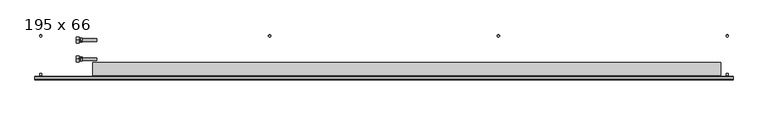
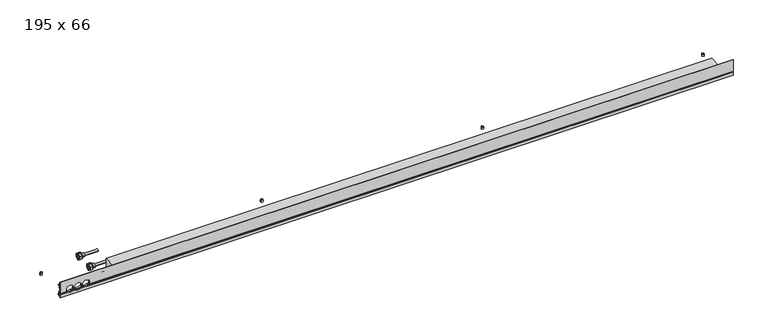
"""IFC4 building model written with IfcOpenShell, lengths in millimetres: proxy geometry, Mohlenhof_Внутрипольный конвектор_QSKM : 195 x 66."""

from ifc_helpers import new_model, si_unit, point, frame, frame_2d, origin, place, context, project, spatial, polyline, circle_curve, ellipse_curve, trimmed, segment, composite_curve, outline, extrude, source, transform, mapped, element, save
from ifc_brep_helpers import plane_surface, cylinder_surface, revolved_surface, advanced_brep


def proxy_195_x_66_0fd88f3c(model_context):
    return source(origin(), model_context, "Body", "SolidModel", [
        extrude(outline(composite_curve([segment(trimmed(circle_curve(frame_2d((-450.0, -273.5)), 4.5), [point((-454.5, -273.5))], [point((-445.5, -273.5))], False, "CARTESIAN"), True, "CONTINUOUS"), segment(trimmed(circle_curve(frame_2d((-450.0, -273.5)), 4.5), [point((-445.5, -273.5))], [point((-454.5, -273.5))], False, "CARTESIAN"), True, "CONTINUOUS")], self_intersect=False)), frame((0.0, 0.0, -79.0), z_axis=(0.0, 0.0, 1.0), x_axis=(1.0, 0.0, 0.0)), (0.0, 0.0, 1.0), 7.0),
        extrude(outline(composite_curve([segment(trimmed(circle_curve(frame_2d((-450.0, -273.5)), 4.0), [point((-454.0, -273.5))], [point((-446.0, -273.5))], False, "CARTESIAN"), True, "CONTINUOUS"), segment(trimmed(circle_curve(frame_2d((-450.0, -273.5)), 4.0), [point((-446.0, -273.5))], [point((-454.0, -273.5))], False, "CARTESIAN"), True, "CONTINUOUS")], self_intersect=False)), frame((0.0, 0.0, -72.0), z_axis=(0.0, 0.0, 1.0), x_axis=(1.0, 0.0, 0.0)), (0.0, 0.0, 1.0), 1.5),
        extrude(outline(composite_curve([segment(trimmed(circle_curve(frame_2d((450.0, -273.5)), 4.5), [point((445.5, -273.5))], [point((454.5, -273.5))], False, "CARTESIAN"), True, "CONTINUOUS"), segment(trimmed(circle_curve(frame_2d((450.0, -273.5)), 4.5), [point((454.5, -273.5))], [point((445.5, -273.5))], False, "CARTESIAN"), True, "CONTINUOUS")], self_intersect=False)), frame((0.0, 0.0, -79.0), z_axis=(0.0, 0.0, 1.0), x_axis=(1.0, 0.0, 0.0)), (0.0, 0.0, 1.0), 7.0),
        extrude(outline(composite_curve([segment(trimmed(circle_curve(frame_2d((450.0, -273.5)), 4.0), [point((446.0, -273.5))], [point((454.0, -273.5))], False, "CARTESIAN"), True, "CONTINUOUS"), segment(trimmed(circle_curve(frame_2d((450.0, -273.5)), 4.0), [point((454.0, -273.5))], [point((446.0, -273.5))], False, "CARTESIAN"), True, "CONTINUOUS")], self_intersect=False)), frame((0.0, 0.0, -72.0), z_axis=(0.0, 0.0, 1.0), x_axis=(1.0, 0.0, 0.0)), (0.0, 0.0, 1.0), 1.5),
        extrude(outline(composite_curve([segment(trimmed(circle_curve(frame_2d((-450.0, -121.5)), 4.5), [point((-454.5, -121.5))], [point((-445.5, -121.5))], False, "CARTESIAN"), True, "CONTINUOUS"), segment(trimmed(circle_curve(frame_2d((-450.0, -121.5)), 4.5), [point((-445.5, -121.5))], [point((-454.5, -121.5))], False, "CARTESIAN"), True, "CONTINUOUS")], self_intersect=False)), frame((0.0, 0.0, -79.0), z_axis=(0.0, 0.0, 1.0), x_axis=(1.0, 0.0, 0.0)), (0.0, 0.0, 1.0), 7.0),
        extrude(outline(composite_curve([segment(trimmed(circle_curve(frame_2d((-450.0, -121.5)), 4.0), [point((-454.0, -121.5))], [point((-446.0, -121.5))], False, "CARTESIAN"), True, "CONTINUOUS"), segment(trimmed(circle_curve(frame_2d((-450.0, -121.5)), 4.0), [point((-446.0, -121.5))], [point((-454.0, -121.5))], False, "CARTESIAN"), True, "CONTINUOUS")], self_intersect=False)), frame((0.0, 0.0, -72.0), z_axis=(0.0, 0.0, 1.0), x_axis=(1.0, 0.0, 0.0)), (0.0, 0.0, 1.0), 1.5),
        extrude(outline(composite_curve([segment(trimmed(circle_curve(frame_2d((450.0, -121.5)), 4.5), [point((445.5, -121.5))], [point((454.5, -121.5))], False, "CARTESIAN"), True, "CONTINUOUS"), segment(trimmed(circle_curve(frame_2d((450.0, -121.5)), 4.5), [point((454.5, -121.5))], [point((445.5, -121.5))], False, "CARTESIAN"), True, "CONTINUOUS")], self_intersect=False)), frame((0.0, 0.0, -79.0), z_axis=(0.0, 0.0, 1.0), x_axis=(1.0, 0.0, 0.0)), (0.0, 0.0, 1.0), 7.0),
        extrude(outline(composite_curve([segment(trimmed(circle_curve(frame_2d((450.0, -121.5)), 4.0), [point((446.0, -121.5))], [point((454.0, -121.5))], False, "CARTESIAN"), True, "CONTINUOUS"), segment(trimmed(circle_curve(frame_2d((450.0, -121.5)), 4.0), [point((454.0, -121.5))], [point((446.0, -121.5))], False, "CARTESIAN"), True, "CONTINUOUS")], self_intersect=False)), frame((0.0, 0.0, -72.0), z_axis=(0.0, 0.0, 1.0), x_axis=(1.0, 0.0, 0.0)), (0.0, 0.0, 1.0), 1.5),
        advanced_brep(
        [(-1199.0, -213.0, -41.0), (-1199.0, -201.0, -41.0), (-1199.0, -225.0, -41.0), (-1186.5, -220.5, -41.0), (-1186.5, -205.5, -41.0), (-1186.5, -213.0, -41.0), (-1194.0, -220.5, -41.0), (-1194.0, -205.5, -41.0)],
        [
            (0, 1),
            (1, 2, circle_curve(frame((-1199.0, -213.0, -41.0), z_axis=(-1.0, 0.0, 0.0), x_axis=(0.0, 1.0, 0.0)), 12.0)),
            (2, 0),
            (2, 1, circle_curve(frame((-1199.0, -213.0, -41.0), z_axis=(-1.0, 0.0, 0.0), x_axis=(0.0, 1.0, 0.0)), 12.0)),
            (3, 4, circle_curve(frame((-1186.5, -213.0, -41.0), z_axis=(1.0, 0.0, 0.0), x_axis=(0.0, 1.0, 0.0)), 7.5)),
            (4, 5),
            (5, 3),
            (4, 3, circle_curve(frame((-1186.5, -213.0, -41.0), z_axis=(1.0, 0.0, 0.0), x_axis=(0.0, 1.0, 0.0)), 7.5)),
            (6, 7, circle_curve(frame((-1194.0, -213.0, -41.0), z_axis=(1.0, 0.0, 0.0), x_axis=(0.0, 1.0, 0.0)), 7.5)),
            (7, 4),
            (3, 6),
            (7, 6, circle_curve(frame((-1194.0, -213.0, -41.0), z_axis=(1.0, 0.0, 0.0), x_axis=(0.0, 1.0, 0.0)), 7.5)),
            (1, 7),
            (6, 2),
        ],
        [
            plane_surface(frame((-1199.0, -213.0, -41.0), z_axis=(-1.0, 0.0, 0.0), x_axis=(0.0, 1.0, 0.0))),
            plane_surface(frame((-1186.5, -213.0, -41.0), z_axis=(1.0, 0.0, 0.0), x_axis=(0.0, 1.0, 0.0))),
            cylinder_surface(frame((-1199.0, -213.0, -41.0), z_axis=(-1.0, 0.0, 0.0), x_axis=(0.0, 1.0, 0.0)), 7.5),
            revolved_surface(polyline([(-1194.0, -205.5, -41.0), (-1199.0, -201.0, -41.0)]), (-1199.0, -213.0, -41.0), (-1.0, 0.0, 0.0)),
        ],
        [
            (0, [[1, 2, 3]]),
            (0, [[-3, 4, -1]]),
            (1, [[5, 6, 7]]),
            (1, [[8, -7, -6]]),
            (2, [[9, 10, -5, 11]]),
            (2, [[12, -11, -8, -10]]),
            (3, [[-2, 13, -9, 14]]),
            (3, [[-4, -14, -12, -13]]),
        ],
    ),
        extrude(outline(polyline([(-213.0, -27.1435935), (-201.0, -34.0717968), (-201.0, -47.9282032), (-213.0, -54.8564065), (-225.0, -47.9282032), (-225.0, -34.0717968), (-213.0, -27.1435935)]), holes=[composite_curve([segment(trimmed(circle_curve(frame_2d((-213.0, -41.0)), 8.5), [point((-204.5, -41.0))], [point((-221.5, -41.0))], True, "CARTESIAN"), True, "CONTINUOUS"), segment(trimmed(circle_curve(frame_2d((-213.0, -41.0)), 8.5), [point((-221.5, -41.0))], [point((-204.5, -41.0))], True, "CARTESIAN"), True, "CONTINUOUS")], self_intersect=False)]), frame((-1210.0, 0.0, 0.0), z_axis=(1.0, 0.0, 0.0), x_axis=(0.0, 1.0, 0.0)), (0.0, 0.0, 1.0), 11.0),
        advanced_brep(
        [(-1199.0, -138.0, -41.0), (-1199.0, -126.0, -41.0), (-1199.0, -150.0, -41.0), (-1186.5, -145.5, -41.0), (-1186.5, -130.5, -41.0), (-1186.5, -138.0, -41.0), (-1194.0, -145.5, -41.0), (-1194.0, -130.5, -41.0)],
        [
            (0, 1),
            (1, 2, circle_curve(frame((-1199.0, -138.0, -41.0), z_axis=(-1.0, 0.0, 0.0), x_axis=(0.0, 1.0, 0.0)), 12.0)),
            (2, 0),
            (2, 1, circle_curve(frame((-1199.0, -138.0, -41.0), z_axis=(-1.0, 0.0, 0.0), x_axis=(0.0, 1.0, 0.0)), 12.0)),
            (3, 4, circle_curve(frame((-1186.5, -138.0, -41.0), z_axis=(1.0, 0.0, 0.0), x_axis=(0.0, 1.0, 0.0)), 7.5)),
            (4, 5),
            (5, 3),
            (4, 3, circle_curve(frame((-1186.5, -138.0, -41.0), z_axis=(1.0, 0.0, 0.0), x_axis=(0.0, 1.0, 0.0)), 7.5)),
            (6, 7, circle_curve(frame((-1194.0, -138.0, -41.0), z_axis=(1.0, 0.0, 0.0), x_axis=(0.0, 1.0, 0.0)), 7.5)),
            (7, 4),
            (3, 6),
            (7, 6, circle_curve(frame((-1194.0, -138.0, -41.0), z_axis=(1.0, 0.0, 0.0), x_axis=(0.0, 1.0, 0.0)), 7.5)),
            (1, 7),
            (6, 2),
        ],
        [
            plane_surface(frame((-1199.0, -138.0, -41.0), z_axis=(-1.0, 0.0, 0.0), x_axis=(0.0, 1.0, 0.0))),
            plane_surface(frame((-1186.5, -138.0, -41.0), z_axis=(1.0, 0.0, 0.0), x_axis=(0.0, 1.0, 0.0))),
            cylinder_surface(frame((-1199.0, -138.0, -41.0), z_axis=(-1.0, 0.0, 0.0), x_axis=(0.0, 1.0, 0.0)), 7.5),
            revolved_surface(polyline([(-1194.0, -130.5, -41.0), (-1199.0, -126.0, -41.0)]), (-1199.0, -138.0, -41.0), (-1.0, 0.0, 0.0)),
        ],
        [
            (0, [[1, 2, 3]]),
            (0, [[-3, 4, -1]]),
            (1, [[5, 6, 7]]),
            (1, [[8, -7, -6]]),
            (2, [[9, 10, -5, 11]]),
            (2, [[12, -11, -8, -10]]),
            (3, [[-2, 13, -9, 14]]),
            (3, [[-4, -14, -12, -13]]),
        ],
    ),
        extrude(outline(polyline([(-138.0, -27.1435935), (-126.0, -34.0717968), (-126.0, -47.9282032), (-138.0, -54.8564065), (-150.0, -47.9282032), (-150.0, -34.0717968), (-138.0, -27.1435935)]), holes=[composite_curve([segment(trimmed(circle_curve(frame_2d((-138.0, -41.0)), 8.5), [point((-129.5, -41.0))], [point((-146.5, -41.0))], True, "CARTESIAN"), True, "CONTINUOUS"), segment(trimmed(circle_curve(frame_2d((-138.0, -41.0)), 8.5), [point((-146.5, -41.0))], [point((-129.5, -41.0))], True, "CARTESIAN"), True, "CONTINUOUS")], self_intersect=False)]), frame((-1210.0, 0.0, 0.0), z_axis=(1.0, 0.0, 0.0), x_axis=(0.0, 1.0, 0.0)), (0.0, 0.0, 1.0), 11.0),
        extrude(outline(composite_curve([segment(trimmed(circle_curve(frame_2d((-1350.0, -273.5)), 4.5), [point((-1354.5, -273.5))], [point((-1345.5, -273.5))], False, "CARTESIAN"), True, "CONTINUOUS"), segment(trimmed(circle_curve(frame_2d((-1350.0, -273.5)), 4.5), [point((-1345.5, -273.5))], [point((-1354.5, -273.5))], False, "CARTESIAN"), True, "CONTINUOUS")], self_intersect=False)), frame((0.0, 0.0, -79.0), z_axis=(0.0, 0.0, 1.0), x_axis=(1.0, 0.0, 0.0)), (0.0, 0.0, 1.0), 7.0),
        extrude(outline(composite_curve([segment(trimmed(circle_curve(frame_2d((-1350.0, -273.5)), 4.0), [point((-1354.0, -273.5))], [point((-1346.0, -273.5))], False, "CARTESIAN"), True, "CONTINUOUS"), segment(trimmed(circle_curve(frame_2d((-1350.0, -273.5)), 4.0), [point((-1346.0, -273.5))], [point((-1354.0, -273.5))], False, "CARTESIAN"), True, "CONTINUOUS")], self_intersect=False)), frame((0.0, 0.0, -72.0), z_axis=(0.0, 0.0, 1.0), x_axis=(1.0, 0.0, 0.0)), (0.0, 0.0, 1.0), 1.5),
        extrude(outline(composite_curve([segment(trimmed(circle_curve(frame_2d((-1350.0, -121.5)), 4.5), [point((-1354.5, -121.5))], [point((-1345.5, -121.5))], False, "CARTESIAN"), True, "CONTINUOUS"), segment(trimmed(circle_curve(frame_2d((-1350.0, -121.5)), 4.5), [point((-1345.5, -121.5))], [point((-1354.5, -121.5))], False, "CARTESIAN"), True, "CONTINUOUS")], self_intersect=False)), frame((0.0, 0.0, -79.0), z_axis=(0.0, 0.0, 1.0), x_axis=(1.0, 0.0, 0.0)), (0.0, 0.0, 1.0), 7.0),
        extrude(outline(composite_curve([segment(trimmed(circle_curve(frame_2d((-1350.0, -121.5)), 4.0), [point((-1354.0, -121.5))], [point((-1346.0, -121.5))], False, "CARTESIAN"), True, "CONTINUOUS"), segment(trimmed(circle_curve(frame_2d((-1350.0, -121.5)), 4.0), [point((-1346.0, -121.5))], [point((-1354.0, -121.5))], False, "CARTESIAN"), True, "CONTINUOUS")], self_intersect=False)), frame((0.0, 0.0, -72.0), z_axis=(0.0, 0.0, 1.0), x_axis=(1.0, 0.0, 0.0)), (0.0, 0.0, 1.0), 1.5),
        extrude(outline(composite_curve([segment(trimmed(circle_curve(frame_2d((1350.0, -273.5)), 4.5), [point((1345.5, -273.5))], [point((1354.5, -273.5))], False, "CARTESIAN"), True, "CONTINUOUS"), segment(trimmed(circle_curve(frame_2d((1350.0, -273.5)), 4.5), [point((1354.5, -273.5))], [point((1345.5, -273.5))], False, "CARTESIAN"), True, "CONTINUOUS")], self_intersect=False)), frame((0.0, 0.0, -79.0), z_axis=(0.0, 0.0, 1.0), x_axis=(1.0, 0.0, 0.0)), (0.0, 0.0, 1.0), 7.0),
        extrude(outline(composite_curve([segment(trimmed(circle_curve(frame_2d((1350.0, -273.5)), 4.0), [point((1346.0, -273.5))], [point((1354.0, -273.5))], False, "CARTESIAN"), True, "CONTINUOUS"), segment(trimmed(circle_curve(frame_2d((1350.0, -273.5)), 4.0), [point((1354.0, -273.5))], [point((1346.0, -273.5))], False, "CARTESIAN"), True, "CONTINUOUS")], self_intersect=False)), frame((0.0, 0.0, -72.0), z_axis=(0.0, 0.0, 1.0), x_axis=(1.0, 0.0, 0.0)), (0.0, 0.0, 1.0), 1.5),
        extrude(outline(composite_curve([segment(trimmed(circle_curve(frame_2d((1350.0, -121.5)), 4.5), [point((1345.5, -121.5))], [point((1354.5, -121.5))], False, "CARTESIAN"), True, "CONTINUOUS"), segment(trimmed(circle_curve(frame_2d((1350.0, -121.5)), 4.5), [point((1354.5, -121.5))], [point((1345.5, -121.5))], False, "CARTESIAN"), True, "CONTINUOUS")], self_intersect=False)), frame((0.0, 0.0, -79.0), z_axis=(0.0, 0.0, 1.0), x_axis=(1.0, 0.0, 0.0)), (0.0, 0.0, 1.0), 7.0),
        extrude(outline(composite_curve([segment(trimmed(circle_curve(frame_2d((1350.0, -121.5)), 4.0), [point((1346.0, -121.5))], [point((1354.0, -121.5))], False, "CARTESIAN"), True, "CONTINUOUS"), segment(trimmed(circle_curve(frame_2d((1350.0, -121.5)), 4.0), [point((1354.0, -121.5))], [point((1346.0, -121.5))], False, "CARTESIAN"), True, "CONTINUOUS")], self_intersect=False)), frame((0.0, 0.0, -72.0), z_axis=(0.0, 0.0, 1.0), x_axis=(1.0, 0.0, 0.0)), (0.0, 0.0, 1.0), 1.5),
        extrude(outline(polyline([(1325.0, -225.87), (1325.0, -277.18), (-1145.0, -277.18), (-1145.0, -225.87), (1325.0, -225.87)])), frame((0.0, 0.0, -62.5), z_axis=(0.0, 0.0, 1.0), x_axis=(1.0, 0.0, 0.0)), (0.0, 0.0, 1.0), 43.62),
        extrude(outline(composite_curve([segment(trimmed(circle_curve(frame_2d((-213.0, -41.0)), 5.0), [point((-218.0, -41.0))], [point((-208.0, -41.0))], False, "CARTESIAN"), True, "CONTINUOUS"), segment(trimmed(circle_curve(frame_2d((-213.0, -41.0)), 5.0), [point((-208.0, -41.0))], [point((-218.0, -41.0))], False, "CARTESIAN"), True, "CONTINUOUS")], self_intersect=False)), frame((-1210.0, 0.0, 0.0), z_axis=(1.0, 0.0, 0.0), x_axis=(0.0, 1.0, 0.0)), (0.0, 0.0, 1.0), 80.0),
        extrude(outline(composite_curve([segment(trimmed(circle_curve(frame_2d((-138.0, -41.0)), 5.0), [point((-143.0, -41.0))], [point((-133.0, -41.0))], False, "CARTESIAN"), True, "CONTINUOUS"), segment(trimmed(circle_curve(frame_2d((-138.0, -41.0)), 5.0), [point((-133.0, -41.0))], [point((-143.0, -41.0))], False, "CARTESIAN"), True, "CONTINUOUS")], self_intersect=False)), frame((-1210.0, 0.0, 0.0), z_axis=(1.0, 0.0, 0.0), x_axis=(0.0, 1.0, 0.0)), (0.0, 0.0, 1.0), 80.0),
        advanced_brep(
        [(1373.0, -295.0, -48.5473602), (1373.0, -293.5, -49.2468216), (1373.0, -292.5, -49.2468216), (1373.0, -292.5, -46.0008038), (1373.0, -290.0, -46.0008038), (1373.0, -290.0, -56.5008038), (1373.0, -292.5, -56.5008038), (1373.0, -292.5, -53.2468216), (1373.0, -293.5, -53.2468216), (1373.0, -295.0, -53.9462831), (1373.0, -295.0, -66.5), (1373.0, -291.0, -66.5), (1373.0, -291.0, -65.2), (1373.0, -293.0, -65.2), (1373.0, -293.0, -62.5), (1373.0, -282.0, -62.5), (1373.0, -282.0, -54.9172677), (1373.0, -283.4172677, -53.5), (1373.0, -287.0, -53.5), (1373.0, -287.0, -45.91), (1373.0, -289.0, -43.91), (1373.0, -289.0, -39.5), (1373.0, -290.0, -39.5), (1373.0, -290.0, -43.5), (1373.0, -292.4956439, -43.5), (1373.0, -292.4956439, -23.0), (1373.0, -290.0, -23.0), (1373.0, -290.0, -27.0), (1373.0, -289.0, -27.0), (1373.0, -289.0, -17.0), (1373.0, -283.3956439, -17.0), (1373.0, -283.3956439, -15.0), (1373.0, -293.4, -15.0), (1373.0, -293.4, 0.0), (1373.0, -295.0, 0.0), (-1373.0, -295.0, -48.5473602), (-1373.0, -295.0, 0.0), (-1373.0, -293.4, 0.0), (-1373.0, -293.4, -15.0), (-1373.0, -283.3956439, -15.0), (-1373.0, -283.3956439, -17.0), (-1373.0, -289.0, -17.0), (-1373.0, -289.0, -27.0), (-1373.0, -290.0, -27.0), (-1373.0, -290.0, -23.0), (-1373.0, -292.4956439, -23.0), (-1373.0, -292.4956439, -43.5), (-1373.0, -290.0, -43.5), (-1373.0, -290.0, -39.5), (-1373.0, -289.0, -39.5), (-1373.0, -289.0, -43.91), (-1373.0, -287.0, -45.91), (-1373.0, -287.0, -53.5), (-1373.0, -283.4172677, -53.5), (-1373.0, -282.0, -54.9172677), (-1373.0, -282.0, -62.5), (-1373.0, -293.0, -62.5), (-1373.0, -293.0, -65.2), (-1373.0, -291.0, -65.2), (-1373.0, -291.0, -66.5), (-1373.0, -295.0, -66.5), (-1373.0, -295.0, -53.9462831), (-1373.0, -293.5, -53.2468216), (-1373.0, -292.5, -53.2468216), (-1373.0, -292.5, -56.5008038), (-1373.0, -290.0, -56.5008038), (-1373.0, -290.0, -46.0008038), (-1373.0, -292.5, -46.0008038), (-1373.0, -292.5, -49.2468216), (-1373.0, -293.5, -49.2468216), (-1253.7585985, -295.0, -48.5473602), (-1254.155283, -293.5, -49.2468216), (-1345.844717, -293.5, -49.2468216), (-1346.2414015, -295.0, -48.5473602), (-1313.2414015, -295.0, -48.5473602), (-1319.7585985, -295.0, -48.5473602), (-1320.155283, -293.5, -49.2468216), (-1312.844717, -293.5, -49.2468216), (-1280.2414015, -295.0, -48.5473602), (-1286.7585985, -295.0, -48.5473602), (-1287.155283, -293.5, -49.2468216), (-1279.844717, -293.5, -49.2468216), (-1254.155283, -292.5, -49.2468216), (-1345.844717, -292.5, -49.2468216), (-1320.155283, -292.5, -49.2468216), (-1312.844717, -292.5, -49.2468216), (-1287.155283, -292.5, -49.2468216), (-1279.844717, -292.5, -49.2468216), (-1252.6911648, -292.5, -46.0008038), (-1347.3088352, -292.5, -46.0008038), (-1318.6911648, -292.5, -46.0008038), (-1314.3088352, -292.5, -46.0008038), (-1285.6911648, -292.5, -46.0008038), (-1281.3088352, -292.5, -46.0008038), (-1252.6911648, -290.0, -46.0008038), (-1347.3088352, -290.0, -46.0008038), (-1318.6911648, -290.0, -46.0008038), (-1314.3088352, -290.0, -46.0008038), (-1285.6911648, -290.0, -46.0008038), (-1281.3088352, -290.0, -46.0008038), (-1342.328032, -292.5, -53.2468216), (-1323.671968, -292.5, -53.2468216), (-1309.328032, -292.5, -53.2468216), (-1290.671968, -292.5, -53.2468216), (-1276.328032, -292.5, -53.2468216), (-1257.671968, -292.5, -53.2468216), (-1257.671968, -293.5, -53.2468216), (-1342.328032, -293.5, -53.2468216), (-1323.671968, -293.5, -53.2468216), (-1309.328032, -293.5, -53.2468216), (-1290.671968, -293.5, -53.2468216), (-1276.328032, -293.5, -53.2468216), (-1258.6280208, -295.0, -53.9462831), (-1341.3719792, -295.0, -53.9462831), (-1324.6280208, -295.0, -53.9462831), (-1308.3719792, -295.0, -53.9462831), (-1291.6280208, -295.0, -53.9462831), (-1275.3719792, -295.0, -53.9462831), (-1339.7064841, -282.0, -54.9172677), (-1326.2935159, -282.0, -54.9172677), (-1306.7064841, -282.0, -54.9172677), (-1293.2935159, -282.0, -54.9172677), (-1273.7064841, -282.0, -54.9172677), (-1260.2935159, -282.0, -54.9172677), (-1258.0, -283.4172677, -53.5), (-1342.0, -283.4172677, -53.5), (-1324.0, -283.4172677, -53.5), (-1309.0, -283.4172677, -53.5), (-1291.0, -283.4172677, -53.5), (-1276.0, -283.4172677, -53.5), (-1258.0, -287.0, -53.5), (-1342.0, -287.0, -53.5), (-1324.0, -287.0, -53.5), (-1309.0, -287.0, -53.5), (-1291.0, -287.0, -53.5), (-1276.0, -287.0, -53.5), (-1252.6629187, -287.0, -45.91), (-1347.3370813, -287.0, -45.91), (-1318.6629187, -287.0, -45.91), (-1314.3370813, -287.0, -45.91), (-1285.6629187, -287.0, -45.91), (-1281.3370813, -287.0, -45.91), (-1252.1948691, -289.0, -43.91), (-1347.8051309, -289.0, -43.91), (-1318.1948691, -289.0, -43.91), (-1314.8051309, -289.0, -43.91), (-1285.1948691, -289.0, -43.91), (-1281.8051309, -289.0, -43.91), (-1252.0, -289.0, -41.5), (-1252.1339313, -289.0, -39.5), (-1347.8660687, -289.0, -39.5), (-1348.0, -289.0, -41.5), (-1318.0, -289.0, -41.5), (-1318.1339313, -289.0, -39.5), (-1314.8660687, -289.0, -39.5), (-1315.0, -289.0, -41.5), (-1285.0, -289.0, -41.5), (-1285.1339313, -289.0, -39.5), (-1281.8660687, -289.0, -39.5), (-1282.0, -289.0, -41.5), (-1252.1339313, -290.0, -39.5), (-1347.8660687, -290.0, -39.5), (-1318.1339313, -290.0, -39.5), (-1314.8660687, -290.0, -39.5), (-1285.1339313, -290.0, -39.5), (-1281.8660687, -290.0, -39.5), (-1252.0, -290.0, -41.5), (-1252.1339313, -290.0, -43.5), (-1347.8660687, -290.0, -43.5), (-1348.0, -290.0, -41.5), (-1318.0, -290.0, -41.5), (-1318.1339313, -290.0, -43.5), (-1314.8660687, -290.0, -43.5), (-1315.0, -290.0, -41.5), (-1285.0, -290.0, -41.5), (-1285.1339313, -290.0, -43.5), (-1281.8660687, -290.0, -43.5), (-1282.0, -290.0, -41.5), (-1252.1339313, -292.4956439, -43.5), (-1347.8660687, -292.4956439, -43.5), (-1318.1339313, -292.4956439, -43.5), (-1314.8660687, -292.4956439, -43.5), (-1285.1339313, -292.4956439, -43.5), (-1281.8660687, -292.4956439, -43.5), (-1252.0, -292.4956439, -41.5), (-1282.0, -292.4956439, -41.5), (-1285.0, -292.4956439, -41.5), (-1315.0, -292.4956439, -41.5), (-1318.0, -292.4956439, -41.5), (-1348.0, -292.4956439, -41.5), (-1336.8405729, -290.0, -27.0), (-1329.1594271, -290.0, -27.0), (-1303.8405729, -290.0, -27.0), (-1296.1594271, -290.0, -27.0), (-1270.8405729, -290.0, -27.0), (-1263.1594271, -290.0, -27.0), (-1263.1594271, -289.0, -27.0), (-1336.8405729, -289.0, -27.0), (-1329.1594271, -289.0, -27.0), (-1303.8405729, -289.0, -27.0), (-1296.1594271, -289.0, -27.0), (-1270.8405729, -289.0, -27.0), (-1348.0, -295.0, -41.5), (-1318.0, -295.0, -41.5), (-1315.0, -295.0, -41.5), (-1285.0, -295.0, -41.5), (-1282.0, -295.0, -41.5), (-1252.0, -295.0, -41.5)],
        [
            (0, 1),
            (1, 2),
            (2, 3),
            (3, 4),
            (4, 5),
            (5, 6),
            (6, 7),
            (7, 8),
            (8, 9),
            (9, 10),
            (10, 11),
            (11, 12),
            (12, 13),
            (13, 14),
            (14, 15),
            (15, 16),
            (16, 17),
            (17, 18),
            (18, 19),
            (19, 20),
            (20, 21),
            (21, 22),
            (22, 23),
            (23, 24),
            (24, 25),
            (25, 26),
            (26, 27),
            (27, 28),
            (28, 29),
            (29, 30),
            (30, 31),
            (31, 32),
            (32, 33),
            (33, 34),
            (34, 0),
            (35, 36),
            (36, 37),
            (37, 38),
            (38, 39),
            (39, 40),
            (40, 41),
            (41, 42),
            (42, 43),
            (43, 44),
            (44, 45),
            (45, 46),
            (46, 47),
            (47, 48),
            (48, 49),
            (49, 50),
            (50, 51),
            (51, 52),
            (52, 53),
            (53, 54),
            (54, 55),
            (55, 56),
            (56, 57),
            (57, 58),
            (58, 59),
            (59, 60),
            (60, 61),
            (61, 62),
            (62, 63),
            (63, 64),
            (64, 65),
            (65, 66),
            (66, 67),
            (67, 68),
            (68, 69),
            (69, 35),
            (0, 70),
            (70, 71, ellipse_curve(frame((-1267.0, -310.1131126, -41.5), z_axis=(0.0, 0.42261826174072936, 0.9063077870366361), x_axis=(0.0, -0.906307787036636, 0.4226182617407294)), 35.4930237, 15.0)),
            (71, 1),
            (69, 72),
            (72, 73, ellipse_curve(frame((-1333.0, -310.1131126, -41.5), z_axis=(0.0, 0.42261826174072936, 0.9063077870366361), x_axis=(0.0, -0.906307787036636, 0.4226182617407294)), 35.4930237, 15.0)),
            (73, 35),
            (74, 75),
            (75, 76, ellipse_curve(frame((-1333.0, -310.1131126, -41.5), z_axis=(0.0, 0.42261826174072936, 0.9063077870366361), x_axis=(0.0, -0.906307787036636, 0.4226182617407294)), 35.4930237, 15.0)),
            (76, 77),
            (77, 74, ellipse_curve(frame((-1300.0, -310.1131126, -41.5), z_axis=(0.0, 0.42261826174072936, 0.9063077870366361), x_axis=(0.0, -0.906307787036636, 0.4226182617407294)), 35.4930237, 15.0)),
            (78, 79),
            (79, 80, ellipse_curve(frame((-1300.0, -310.1131126, -41.5), z_axis=(0.0, 0.42261826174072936, 0.9063077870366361), x_axis=(0.0, -0.906307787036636, 0.4226182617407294)), 35.4930237, 15.0)),
            (80, 81),
            (81, 78, ellipse_curve(frame((-1267.0, -310.1131126, -41.5), z_axis=(0.0, 0.42261826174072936, 0.9063077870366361), x_axis=(0.0, -0.906307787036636, 0.4226182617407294)), 35.4930237, 15.0)),
            (71, 82),
            (82, 2),
            (68, 83),
            (83, 72),
            (76, 84),
            (84, 85),
            (85, 77),
            (80, 86),
            (86, 87),
            (87, 81),
            (82, 88, circle_curve(frame((-1267.0, -292.5, -41.5), z_axis=(0.0, -1.0, 0.0), x_axis=(1.0, 0.0, 0.0)), 15.0)),
            (88, 3),
            (67, 89),
            (89, 83, circle_curve(frame((-1333.0, -292.5, -41.5), z_axis=(0.0, -1.0, 0.0), x_axis=(1.0, 0.0, 0.0)), 15.0)),
            (84, 90, circle_curve(frame((-1333.0, -292.5, -41.5), z_axis=(0.0, -1.0, 0.0), x_axis=(1.0, 0.0, 0.0)), 15.0)),
            (90, 91),
            (91, 85, circle_curve(frame((-1300.0, -292.5, -41.5), z_axis=(0.0, -1.0, 0.0), x_axis=(1.0, 0.0, 0.0)), 15.0)),
            (86, 92, circle_curve(frame((-1300.0, -292.5, -41.5), z_axis=(0.0, -1.0, 0.0), x_axis=(1.0, 0.0, 0.0)), 15.0)),
            (92, 93),
            (93, 87, circle_curve(frame((-1267.0, -292.5, -41.5), z_axis=(0.0, -1.0, 0.0), x_axis=(1.0, 0.0, 0.0)), 15.0)),
            (88, 94),
            (94, 4),
            (66, 95),
            (95, 89),
            (90, 96),
            (96, 97),
            (97, 91),
            (92, 98),
            (98, 99),
            (99, 93),
            (94, 99, circle_curve(frame((-1267.0, -290.0, -41.5), z_axis=(0.0, 1.0, 0.0), x_axis=(1.0, 0.0, 0.0)), 15.0)),
            (98, 97, circle_curve(frame((-1300.0, -290.0, -41.5), z_axis=(0.0, 1.0, 0.0), x_axis=(1.0, 0.0, 0.0)), 15.0)),
            (96, 95, circle_curve(frame((-1333.0, -290.0, -41.5), z_axis=(0.0, 1.0, 0.0), x_axis=(1.0, 0.0, 0.0)), 15.0)),
            (65, 5),
            (64, 6),
            (63, 100),
            (100, 101, circle_curve(frame((-1333.0, -292.5, -41.5), z_axis=(0.0, -1.0, 0.0), x_axis=(1.0, 0.0, 0.0)), 15.0)),
            (101, 102),
            (102, 103, circle_curve(frame((-1300.0, -292.5, -41.5), z_axis=(0.0, -1.0, 0.0), x_axis=(1.0, 0.0, 0.0)), 15.0)),
            (103, 104),
            (104, 105, circle_curve(frame((-1267.0, -292.5, -41.5), z_axis=(0.0, -1.0, 0.0), x_axis=(1.0, 0.0, 0.0)), 15.0)),
            (105, 7),
            (105, 106),
            (106, 8),
            (62, 107),
            (107, 100),
            (101, 108),
            (108, 109),
            (109, 102),
            (103, 110),
            (110, 111),
            (111, 104),
            (106, 112, ellipse_curve(frame((-1267.0, -268.3088597, -41.5), z_axis=(0.0, 0.4226182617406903, -0.9063077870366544), x_axis=(0.0, -0.9063077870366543, -0.42261826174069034)), 35.4930237, 15.0)),
            (112, 9),
            (61, 113),
            (113, 107, ellipse_curve(frame((-1333.0, -268.3088597, -41.5), z_axis=(0.0, 0.4226182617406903, -0.9063077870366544), x_axis=(0.0, -0.9063077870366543, -0.42261826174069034)), 35.4930237, 15.0)),
            (108, 114, ellipse_curve(frame((-1333.0, -268.3088597, -41.5), z_axis=(0.0, 0.4226182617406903, -0.9063077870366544), x_axis=(0.0, -0.9063077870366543, -0.42261826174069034)), 35.4930237, 15.0)),
            (114, 115),
            (115, 109, ellipse_curve(frame((-1300.0, -268.3088597, -41.5), z_axis=(0.0, 0.4226182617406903, -0.9063077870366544), x_axis=(0.0, -0.9063077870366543, -0.42261826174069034)), 35.4930237, 15.0)),
            (110, 116, ellipse_curve(frame((-1300.0, -268.3088597, -41.5), z_axis=(0.0, 0.4226182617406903, -0.9063077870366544), x_axis=(0.0, -0.9063077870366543, -0.42261826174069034)), 35.4930237, 15.0)),
            (116, 117),
            (117, 111, ellipse_curve(frame((-1267.0, -268.3088597, -41.5), z_axis=(0.0, 0.4226182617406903, -0.9063077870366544), x_axis=(0.0, -0.9063077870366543, -0.42261826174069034)), 35.4930237, 15.0)),
            (112, 117, circle_curve(frame((-1267.0, -295.0, -41.5), z_axis=(0.0, 1.0, 0.0), x_axis=(1.0, 0.0, 0.0)), 15.0)),
            (116, 115, circle_curve(frame((-1300.0, -295.0, -41.5), z_axis=(0.0, 1.0, 0.0), x_axis=(1.0, 0.0, 0.0)), 15.0)),
            (114, 113, circle_curve(frame((-1333.0, -295.0, -41.5), z_axis=(0.0, 1.0, 0.0), x_axis=(1.0, 0.0, 0.0)), 15.0)),
            (60, 10),
            (59, 11),
            (58, 12),
            (57, 13),
            (56, 14),
            (55, 15),
            (54, 118),
            (118, 119, circle_curve(frame((-1333.0, -282.0, -41.5), z_axis=(0.0, -1.0, 0.0), x_axis=(1.0, 0.0, 0.0)), 15.0)),
            (119, 120),
            (120, 121, circle_curve(frame((-1300.0, -282.0, -41.5), z_axis=(0.0, -1.0, 0.0), x_axis=(1.0, 0.0, 0.0)), 15.0)),
            (121, 122),
            (122, 123, circle_curve(frame((-1267.0, -282.0, -41.5), z_axis=(0.0, -1.0, 0.0), x_axis=(1.0, 0.0, 0.0)), 15.0)),
            (123, 16),
            (123, 124, ellipse_curve(frame((-1267.0, -295.4172677, -41.5), z_axis=(0.0, -0.7071067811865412, -0.7071067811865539), x_axis=(0.0, -0.7071067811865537, 0.7071067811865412)), 21.2132034, 15.0)),
            (124, 17),
            (53, 125),
            (125, 118, ellipse_curve(frame((-1333.0, -295.4172677, -41.5), z_axis=(0.0, -0.7071067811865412, -0.7071067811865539), x_axis=(0.0, -0.7071067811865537, 0.7071067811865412)), 21.2132034, 15.0)),
            (119, 126, ellipse_curve(frame((-1333.0, -295.4172677, -41.5), z_axis=(0.0, -0.7071067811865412, -0.7071067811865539), x_axis=(0.0, -0.7071067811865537, 0.7071067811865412)), 21.2132034, 15.0)),
            (126, 127),
            (127, 120, ellipse_curve(frame((-1300.0, -295.4172677, -41.5), z_axis=(0.0, -0.7071067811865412, -0.7071067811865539), x_axis=(0.0, -0.7071067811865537, 0.7071067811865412)), 21.2132034, 15.0)),
            (121, 128, ellipse_curve(frame((-1300.0, -295.4172677, -41.5), z_axis=(0.0, -0.7071067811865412, -0.7071067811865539), x_axis=(0.0, -0.7071067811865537, 0.7071067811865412)), 21.2132034, 15.0)),
            (128, 129),
            (129, 122, ellipse_curve(frame((-1267.0, -295.4172677, -41.5), z_axis=(0.0, -0.7071067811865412, -0.7071067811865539), x_axis=(0.0, -0.7071067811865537, 0.7071067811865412)), 21.2132034, 15.0)),
            (124, 130),
            (130, 18),
            (52, 131),
            (131, 125),
            (126, 132),
            (132, 133),
            (133, 127),
            (128, 134),
            (134, 135),
            (135, 129),
            (130, 136, circle_curve(frame((-1267.0, -287.0, -41.5), z_axis=(0.0, -1.0, 0.0), x_axis=(1.0, 0.0, 0.0)), 15.0)),
            (136, 19),
            (51, 137),
            (137, 131, circle_curve(frame((-1333.0, -287.0, -41.5), z_axis=(0.0, -1.0, 0.0), x_axis=(1.0, 0.0, 0.0)), 15.0)),
            (132, 138, circle_curve(frame((-1333.0, -287.0, -41.5), z_axis=(0.0, -1.0, 0.0), x_axis=(1.0, 0.0, 0.0)), 15.0)),
            (138, 139),
            (139, 133, circle_curve(frame((-1300.0, -287.0, -41.5), z_axis=(0.0, -1.0, 0.0), x_axis=(1.0, 0.0, 0.0)), 15.0)),
            (134, 140, circle_curve(frame((-1300.0, -287.0, -41.5), z_axis=(0.0, -1.0, 0.0), x_axis=(1.0, 0.0, 0.0)), 15.0)),
            (140, 141),
            (141, 135, circle_curve(frame((-1267.0, -287.0, -41.5), z_axis=(0.0, -1.0, 0.0), x_axis=(1.0, 0.0, 0.0)), 15.0)),
            (136, 142, ellipse_curve(frame((-1267.0, -291.41, -41.5), z_axis=(0.0, -0.7071067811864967, -0.7071067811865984), x_axis=(0.0, -0.7071067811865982, 0.7071067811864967)), 21.2132034, 15.0)),
            (142, 20),
            (50, 143),
            (143, 137, ellipse_curve(frame((-1333.0, -291.41, -41.5), z_axis=(0.0, -0.7071067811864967, -0.7071067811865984), x_axis=(0.0, -0.7071067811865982, 0.7071067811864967)), 21.2132034, 15.0)),
            (138, 144, ellipse_curve(frame((-1333.0, -291.41, -41.5), z_axis=(0.0, -0.7071067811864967, -0.7071067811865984), x_axis=(0.0, -0.7071067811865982, 0.7071067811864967)), 21.2132034, 15.0)),
            (144, 145),
            (145, 139, ellipse_curve(frame((-1300.0, -291.41, -41.5), z_axis=(0.0, -0.7071067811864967, -0.7071067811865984), x_axis=(0.0, -0.7071067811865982, 0.7071067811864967)), 21.2132034, 15.0)),
            (140, 146, ellipse_curve(frame((-1300.0, -291.41, -41.5), z_axis=(0.0, -0.7071067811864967, -0.7071067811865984), x_axis=(0.0, -0.7071067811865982, 0.7071067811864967)), 21.2132034, 15.0)),
            (146, 147),
            (147, 141, ellipse_curve(frame((-1267.0, -291.41, -41.5), z_axis=(0.0, -0.7071067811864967, -0.7071067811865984), x_axis=(0.0, -0.7071067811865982, 0.7071067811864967)), 21.2132034, 15.0)),
            (142, 148, circle_curve(frame((-1267.0, -289.0, -41.5), z_axis=(0.0, -1.0, 0.0), x_axis=(1.0, 0.0, 0.0)), 15.0)),
            (148, 149, circle_curve(frame((-1267.0, -289.0, -41.5), z_axis=(0.0, -1.0, 0.0), x_axis=(1.0, 0.0, 0.0)), 15.0)),
            (149, 21),
            (49, 150),
            (150, 151, circle_curve(frame((-1333.0, -289.0, -41.5), z_axis=(0.0, -1.0, 0.0), x_axis=(1.0, 0.0, 0.0)), 15.0)),
            (151, 143, circle_curve(frame((-1333.0, -289.0, -41.5), z_axis=(0.0, -1.0, 0.0), x_axis=(1.0, 0.0, 0.0)), 15.0)),
            (144, 152, circle_curve(frame((-1333.0, -289.0, -41.5), z_axis=(0.0, -1.0, 0.0), x_axis=(1.0, 0.0, 0.0)), 15.0)),
            (152, 153, circle_curve(frame((-1333.0, -289.0, -41.5), z_axis=(0.0, -1.0, 0.0), x_axis=(1.0, 0.0, 0.0)), 15.0)),
            (153, 154),
            (154, 155, circle_curve(frame((-1300.0, -289.0, -41.5), z_axis=(0.0, -1.0, 0.0), x_axis=(1.0, 0.0, 0.0)), 15.0)),
            (155, 145, circle_curve(frame((-1300.0, -289.0, -41.5), z_axis=(0.0, -1.0, 0.0), x_axis=(1.0, 0.0, 0.0)), 15.0)),
            (146, 156, circle_curve(frame((-1300.0, -289.0, -41.5), z_axis=(0.0, -1.0, 0.0), x_axis=(1.0, 0.0, 0.0)), 15.0)),
            (156, 157, circle_curve(frame((-1300.0, -289.0, -41.5), z_axis=(0.0, -1.0, 0.0), x_axis=(1.0, 0.0, 0.0)), 15.0)),
            (157, 158),
            (158, 159, circle_curve(frame((-1267.0, -289.0, -41.5), z_axis=(0.0, -1.0, 0.0), x_axis=(1.0, 0.0, 0.0)), 15.0)),
            (159, 147, circle_curve(frame((-1267.0, -289.0, -41.5), z_axis=(0.0, -1.0, 0.0), x_axis=(1.0, 0.0, 0.0)), 15.0)),
            (149, 160),
            (160, 22),
            (48, 161),
            (161, 150),
            (153, 162),
            (162, 163),
            (163, 154),
            (157, 164),
            (164, 165),
            (165, 158),
            (160, 166, circle_curve(frame((-1267.0, -290.0, -41.5), z_axis=(0.0, 1.0, 0.0), x_axis=(1.0, 0.0, 0.0)), 15.0)),
            (166, 167, circle_curve(frame((-1267.0, -290.0, -41.5), z_axis=(0.0, 1.0, 0.0), x_axis=(1.0, 0.0, 0.0)), 15.0)),
            (167, 23),
            (47, 168),
            (168, 169, circle_curve(frame((-1333.0, -290.0, -41.5), z_axis=(0.0, 1.0, 0.0), x_axis=(1.0, 0.0, 0.0)), 15.0)),
            (169, 161, circle_curve(frame((-1333.0, -290.0, -41.5), z_axis=(0.0, 1.0, 0.0), x_axis=(1.0, 0.0, 0.0)), 15.0)),
            (162, 170, circle_curve(frame((-1333.0, -290.0, -41.5), z_axis=(0.0, 1.0, 0.0), x_axis=(1.0, 0.0, 0.0)), 15.0)),
            (170, 171, circle_curve(frame((-1333.0, -290.0, -41.5), z_axis=(0.0, 1.0, 0.0), x_axis=(1.0, 0.0, 0.0)), 15.0)),
            (171, 172),
            (172, 173, circle_curve(frame((-1300.0, -290.0, -41.5), z_axis=(0.0, 1.0, 0.0), x_axis=(1.0, 0.0, 0.0)), 15.0)),
            (173, 163, circle_curve(frame((-1300.0, -290.0, -41.5), z_axis=(0.0, 1.0, 0.0), x_axis=(1.0, 0.0, 0.0)), 15.0)),
            (164, 174, circle_curve(frame((-1300.0, -290.0, -41.5), z_axis=(0.0, 1.0, 0.0), x_axis=(1.0, 0.0, 0.0)), 15.0)),
            (174, 175, circle_curve(frame((-1300.0, -290.0, -41.5), z_axis=(0.0, 1.0, 0.0), x_axis=(1.0, 0.0, 0.0)), 15.0)),
            (175, 176),
            (176, 177, circle_curve(frame((-1267.0, -290.0, -41.5), z_axis=(0.0, 1.0, 0.0), x_axis=(1.0, 0.0, 0.0)), 15.0)),
            (177, 165, circle_curve(frame((-1267.0, -290.0, -41.5), z_axis=(0.0, 1.0, 0.0), x_axis=(1.0, 0.0, 0.0)), 15.0)),
            (167, 178),
            (178, 24),
            (46, 179),
            (179, 168),
            (171, 180),
            (180, 181),
            (181, 172),
            (175, 182),
            (182, 183),
            (183, 176),
            (178, 184, circle_curve(frame((-1267.0, -292.4956439, -41.5), z_axis=(0.0, -1.0, 0.0), x_axis=(1.0, 0.0, 0.0)), 15.0)),
            (184, 185, circle_curve(frame((-1267.0, -292.4956439, -41.5), z_axis=(0.0, -1.0, 0.0), x_axis=(1.0, 0.0, 0.0)), 15.0)),
            (185, 183, circle_curve(frame((-1267.0, -292.4956439, -41.5), z_axis=(0.0, -1.0, 0.0), x_axis=(1.0, 0.0, 0.0)), 15.0)),
            (182, 186, circle_curve(frame((-1300.0, -292.4956439, -41.5), z_axis=(0.0, -1.0, 0.0), x_axis=(1.0, 0.0, 0.0)), 15.0)),
            (186, 187, circle_curve(frame((-1300.0, -292.4956439, -41.5), z_axis=(0.0, -1.0, 0.0), x_axis=(1.0, 0.0, 0.0)), 15.0)),
            (187, 181, circle_curve(frame((-1300.0, -292.4956439, -41.5), z_axis=(0.0, -1.0, 0.0), x_axis=(1.0, 0.0, 0.0)), 15.0)),
            (180, 188, circle_curve(frame((-1333.0, -292.4956439, -41.5), z_axis=(0.0, -1.0, 0.0), x_axis=(1.0, 0.0, 0.0)), 15.0)),
            (188, 189, circle_curve(frame((-1333.0, -292.4956439, -41.5), z_axis=(0.0, -1.0, 0.0), x_axis=(1.0, 0.0, 0.0)), 15.0)),
            (189, 179, circle_curve(frame((-1333.0, -292.4956439, -41.5), z_axis=(0.0, -1.0, 0.0), x_axis=(1.0, 0.0, 0.0)), 15.0)),
            (45, 25),
            (44, 26),
            (43, 190),
            (190, 191, circle_curve(frame((-1333.0, -290.0, -41.5), z_axis=(0.0, 1.0, 0.0), x_axis=(1.0, 0.0, 0.0)), 15.0)),
            (191, 192),
            (192, 193, circle_curve(frame((-1300.0, -290.0, -41.5), z_axis=(0.0, 1.0, 0.0), x_axis=(1.0, 0.0, 0.0)), 15.0)),
            (193, 194),
            (194, 195, circle_curve(frame((-1267.0, -290.0, -41.5), z_axis=(0.0, 1.0, 0.0), x_axis=(1.0, 0.0, 0.0)), 15.0)),
            (195, 27),
            (195, 196),
            (196, 28),
            (42, 197),
            (197, 190),
            (191, 198),
            (198, 199),
            (199, 192),
            (193, 200),
            (200, 201),
            (201, 194),
            (196, 201, circle_curve(frame((-1267.0, -289.0, -41.5), z_axis=(0.0, -1.0, 0.0), x_axis=(1.0, 0.0, 0.0)), 15.0)),
            (200, 199, circle_curve(frame((-1300.0, -289.0, -41.5), z_axis=(0.0, -1.0, 0.0), x_axis=(1.0, 0.0, 0.0)), 15.0)),
            (198, 197, circle_curve(frame((-1333.0, -289.0, -41.5), z_axis=(0.0, -1.0, 0.0), x_axis=(1.0, 0.0, 0.0)), 15.0)),
            (41, 29),
            (40, 30),
            (39, 31),
            (38, 32),
            (37, 33),
            (36, 34),
            (73, 202, circle_curve(frame((-1333.0, -295.0, -41.5), z_axis=(0.0, 1.0, 0.0), x_axis=(1.0, 0.0, 0.0)), 15.0)),
            (202, 203, circle_curve(frame((-1333.0, -295.0, -41.5), z_axis=(0.0, 1.0, 0.0), x_axis=(1.0, 0.0, 0.0)), 15.0)),
            (203, 75, circle_curve(frame((-1333.0, -295.0, -41.5), z_axis=(0.0, 1.0, 0.0), x_axis=(1.0, 0.0, 0.0)), 15.0)),
            (74, 204, circle_curve(frame((-1300.0, -295.0, -41.5), z_axis=(0.0, 1.0, 0.0), x_axis=(1.0, 0.0, 0.0)), 15.0)),
            (204, 205, circle_curve(frame((-1300.0, -295.0, -41.5), z_axis=(0.0, 1.0, 0.0), x_axis=(1.0, 0.0, 0.0)), 15.0)),
            (205, 79, circle_curve(frame((-1300.0, -295.0, -41.5), z_axis=(0.0, 1.0, 0.0), x_axis=(1.0, 0.0, 0.0)), 15.0)),
            (78, 206, circle_curve(frame((-1267.0, -295.0, -41.5), z_axis=(0.0, 1.0, 0.0), x_axis=(1.0, 0.0, 0.0)), 15.0)),
            (206, 207, circle_curve(frame((-1267.0, -295.0, -41.5), z_axis=(0.0, 1.0, 0.0), x_axis=(1.0, 0.0, 0.0)), 15.0)),
            (207, 70, circle_curve(frame((-1267.0, -295.0, -41.5), z_axis=(0.0, 1.0, 0.0), x_axis=(1.0, 0.0, 0.0)), 15.0)),
            (151, 169),
            (189, 202),
            (203, 188),
            (170, 152),
            (155, 173),
            (187, 204),
            (205, 186),
            (174, 156),
            (159, 177),
            (185, 206),
            (207, 184),
            (166, 148),
        ],
        [
            plane_surface(frame((1373.0, -293.0, -62.5), z_axis=(1.0, 0.0, 0.0), x_axis=(0.0, 0.0, 1.0))),
            plane_surface(frame((-1373.0, -293.0, -62.5), z_axis=(-1.0, 0.0, 0.0), x_axis=(0.0, 0.0, 1.0))),
            plane_surface(frame((1373.0, -295.0, -48.5473602), z_axis=(0.0, -0.42261826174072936, -0.9063077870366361), x_axis=(-1.0, 0.0, 0.0))),
            plane_surface(frame((1373.0, -293.5, -49.2468216), z_axis=(0.0, 0.0, -1.0), x_axis=(-1.0, 0.0, 0.0))),
            plane_surface(frame((1373.0, -292.5, -49.2468216), z_axis=(0.0, 1.0, 0.0), x_axis=(-1.0, 0.0, 0.0))),
            plane_surface(frame((1373.0, -292.5, -46.0008038), z_axis=(0.0, 0.0, -1.0), x_axis=(-1.0, 0.0, 0.0))),
            plane_surface(frame((1373.0, -290.0, -46.0008038), z_axis=(0.0, -1.0, 0.0), x_axis=(-1.0, 0.0, 0.0))),
            plane_surface(frame((1373.0, -290.0, -56.5008038), z_axis=(0.0, 0.0, 1.0), x_axis=(-1.0, 0.0, 0.0))),
            plane_surface(frame((1373.0, -292.5, -56.5008038), z_axis=(0.0, 1.0, 0.0), x_axis=(-1.0, 0.0, 0.0))),
            plane_surface(frame((1373.0, -292.5, -53.2468216), z_axis=(0.0, 0.0, 1.0), x_axis=(-1.0, 0.0, 0.0))),
            plane_surface(frame((1373.0, -293.5, -53.2468216), z_axis=(0.0, -0.4226182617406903, 0.9063077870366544), x_axis=(-1.0, 0.0, 0.0))),
            plane_surface(frame((1373.0, -295.0, -53.9462831), z_axis=(0.0, -1.0, 0.0), x_axis=(-1.0, 0.0, 0.0))),
            plane_surface(frame((1373.0, -295.0, -66.5), z_axis=(0.0, 0.0, -1.0), x_axis=(-1.0, 0.0, 0.0))),
            plane_surface(frame((1373.0, -291.0, -66.5), z_axis=(0.0, 1.0, 0.0), x_axis=(-1.0, 0.0, 0.0))),
            plane_surface(frame((1373.0, -291.0, -65.2), z_axis=(0.0, 0.0, 1.0), x_axis=(-1.0, 0.0, 0.0))),
            plane_surface(frame((1373.0, -293.0, -65.2), z_axis=(0.0, 1.0, 0.0), x_axis=(-1.0, 0.0, 0.0))),
            plane_surface(frame((1373.0, -293.0, -62.5), z_axis=(0.0, 0.0, -1.0), x_axis=(-1.0, 0.0, 0.0))),
            plane_surface(frame((1373.0, -282.0, -62.5), z_axis=(0.0, 1.0, 0.0), x_axis=(-1.0, 0.0, 0.0))),
            plane_surface(frame((1373.0, -282.0, -54.9172677), z_axis=(0.0, 0.7071067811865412, 0.7071067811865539), x_axis=(-1.0, 0.0, 0.0))),
            plane_surface(frame((1373.0, -283.4172677, -53.5), z_axis=(0.0, 0.0, 1.0), x_axis=(-1.0, 0.0, 0.0))),
            plane_surface(frame((1373.0, -287.0, -53.5), z_axis=(0.0, 1.0, 0.0), x_axis=(-1.0, 0.0, 0.0))),
            plane_surface(frame((1373.0, -287.0, -45.91), z_axis=(0.0, 0.7071067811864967, 0.7071067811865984), x_axis=(-1.0, 0.0, 0.0))),
            plane_surface(frame((1373.0, -289.0, -43.91), z_axis=(0.0, 1.0, 0.0), x_axis=(-1.0, 0.0, 0.0))),
            plane_surface(frame((1373.0, -289.0, -39.5), z_axis=(0.0, 0.0, 1.0), x_axis=(-1.0, 0.0, 0.0))),
            plane_surface(frame((1373.0, -290.0, -39.5), z_axis=(0.0, -1.0, 0.0), x_axis=(-1.0, 0.0, 0.0))),
            plane_surface(frame((1373.0, -290.0, -43.5), z_axis=(0.0, 0.0, 1.0), x_axis=(-1.0, 0.0, 0.0))),
            plane_surface(frame((1373.0, -292.4956439, -43.5), z_axis=(0.0, 1.0, 0.0), x_axis=(-1.0, 0.0, 0.0))),
            plane_surface(frame((1373.0, -292.4956439, -23.0), z_axis=(0.0, 0.0, -1.0), x_axis=(-1.0, 0.0, 0.0))),
            plane_surface(frame((1373.0, -290.0, -23.0), z_axis=(0.0, -1.0, 0.0), x_axis=(-1.0, 0.0, 0.0))),
            plane_surface(frame((1373.0, -290.0, -27.0), z_axis=(0.0, 0.0, -1.0), x_axis=(-1.0, 0.0, 0.0))),
            plane_surface(frame((1373.0, -289.0, -27.0), z_axis=(0.0, 1.0, 0.0), x_axis=(-1.0, 0.0, 0.0))),
            plane_surface(frame((1373.0, -289.0, -17.0), z_axis=(0.0, 0.0, -1.0), x_axis=(-1.0, 0.0, 0.0))),
            plane_surface(frame((1373.0, -283.3956439, -17.0), z_axis=(0.0, 1.0, 0.0), x_axis=(-1.0, 0.0, 0.0))),
            plane_surface(frame((1373.0, -283.3956439, -15.0), z_axis=(0.0, 0.0, 1.0), x_axis=(-1.0, 0.0, 0.0))),
            plane_surface(frame((1373.0, -293.4, -15.0), z_axis=(0.0, 1.0, 0.0), x_axis=(-1.0, 0.0, 0.0))),
            plane_surface(frame((1373.0, -293.4, 0.0), z_axis=(0.0, 0.0, 1.0), x_axis=(-1.0, 0.0, 0.0))),
            plane_surface(frame((1373.0, -295.0, 0.0), z_axis=(0.0, -1.0, 0.0), x_axis=(-1.0, 0.0, 0.0))),
            revolved_surface(polyline([(-1318.0, -300.47646346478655, -41.5), (-1318.0, -236.1412559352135, -41.5)]), (-1333.0, -263.0, -41.5), (0.0, -1.0, 0.0)),
            revolved_surface(polyline([(-1318.0, -342.2807163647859, -41.5), (-1318.0, -276.41000002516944, -41.5)]), (-1333.0, -263.0, -41.5), (0.0, -1.0, 0.0)),
            revolved_surface(polyline([(-1318.0, -290.0, -41.5), (-1318.0, -289.0, -41.5)]), (-1333.0, -263.0, -41.5), (0.0, -1.0, 0.0)),
            revolved_surface(polyline([(-1318.0, -295.0, -41.5), (-1318.0, -292.4956439, -41.5)]), (-1333.0, -263.0, -41.5), (0.0, -1.0, 0.0)),
            revolved_surface(polyline([(-1285.0, -300.47646346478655, -41.5), (-1285.0, -236.1412559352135, -41.5)]), (-1300.0, 0.0, -41.5), (0.0, -1.0, 0.0)),
            revolved_surface(polyline([(-1285.0, -342.2807163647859, -41.5), (-1285.0, -276.41000002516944, -41.5)]), (-1300.0, 0.0, -41.5), (0.0, -1.0, 0.0)),
            revolved_surface(polyline([(-1285.0, -290.0, -41.5), (-1285.0, -289.0, -41.5)]), (-1300.0, 0.0, -41.5), (0.0, -1.0, 0.0)),
            revolved_surface(polyline([(-1285.0, -295.0, -41.5), (-1285.0, -292.4956439, -41.5)]), (-1300.0, 0.0, -41.5), (0.0, -1.0, 0.0)),
            revolved_surface(polyline([(-1252.0, -300.47646346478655, -41.5), (-1252.0, -236.1412559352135, -41.5)]), (-1267.0, 0.0, -41.5), (0.0, -1.0, 0.0)),
            revolved_surface(polyline([(-1252.0, -342.2807163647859, -41.5), (-1252.0, -276.41000002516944, -41.5)]), (-1267.0, 0.0, -41.5), (0.0, -1.0, 0.0)),
            revolved_surface(polyline([(-1252.0, -290.0, -41.5), (-1252.0, -289.0, -41.5)]), (-1267.0, 0.0, -41.5), (0.0, -1.0, 0.0)),
            revolved_surface(polyline([(-1252.0, -295.0, -41.5), (-1252.0, -292.4956439, -41.5)]), (-1267.0, 0.0, -41.5), (0.0, -1.0, 0.0)),
        ],
        [
            (0, [[1, 2, 3, 4, 5, 6, 7, 8, 9, 10, 11, 12, 13, 14, 15, 16, 17, 18, 19, 20, 21, 22, 23, 24, 25, 26, 27, 28, 29, 30, 31, 32, 33, 34, 35]]),
            (1, [[36, 37, 38, 39, 40, 41, 42, 43, 44, 45, 46, 47, 48, 49, 50, 51, 52, 53, 54, 55, 56, 57, 58, 59, 60, 61, 62, 63, 64, 65, 66, 67, 68, 69, 70]]),
            (2, [[-1, 71, 72, 73]]),
            (2, [[-70, 74, 75, 76]]),
            (2, [[77, 78, 79, 80]]),
            (2, [[81, 82, 83, 84]]),
            (3, [[-2, -73, 85, 86]]),
            (3, [[-69, 87, 88, -74]]),
            (3, [[-79, 89, 90, 91]]),
            (3, [[-83, 92, 93, 94]]),
            (4, [[-3, -86, 95, 96]]),
            (4, [[-68, 97, 98, -87]]),
            (4, [[-90, 99, 100, 101]]),
            (4, [[-93, 102, 103, 104]]),
            (5, [[-4, -96, 105, 106]]),
            (5, [[-67, 107, 108, -97]]),
            (5, [[-100, 109, 110, 111]]),
            (5, [[-103, 112, 113, 114]]),
            (6, [[-5, -106, 115, -113, 116, -110, 117, -107, -66, 118]]),
            (7, [[-6, -118, -65, 119]]),
            (8, [[-7, -119, -64, 120, 121, 122, 123, 124, 125, 126]]),
            (9, [[-8, -126, 127, 128]]),
            (9, [[-63, 129, 130, -120]]),
            (9, [[-122, 131, 132, 133]]),
            (9, [[-124, 134, 135, 136]]),
            (10, [[-9, -128, 137, 138]]),
            (10, [[-62, 139, 140, -129]]),
            (10, [[-132, 141, 142, 143]]),
            (10, [[-135, 144, 145, 146]]),
            (11, [[-10, -138, 147, -145, 148, -142, 149, -139, -61, 150]]),
            (12, [[-11, -150, -60, 151]]),
            (13, [[-12, -151, -59, 152]]),
            (14, [[-13, -152, -58, 153]]),
            (15, [[-14, -153, -57, 154]]),
            (16, [[-15, -154, -56, 155]]),
            (17, [[-16, -155, -55, 156, 157, 158, 159, 160, 161, 162]]),
            (18, [[-17, -162, 163, 164]]),
            (18, [[-54, 165, 166, -156]]),
            (18, [[-158, 167, 168, 169]]),
            (18, [[-160, 170, 171, 172]]),
            (19, [[-18, -164, 173, 174]]),
            (19, [[-53, 175, 176, -165]]),
            (19, [[-168, 177, 178, 179]]),
            (19, [[-171, 180, 181, 182]]),
            (20, [[-19, -174, 183, 184]]),
            (20, [[-52, 185, 186, -175]]),
            (20, [[-178, 187, 188, 189]]),
            (20, [[-181, 190, 191, 192]]),
            (21, [[-20, -184, 193, 194]]),
            (21, [[-51, 195, 196, -185]]),
            (21, [[-188, 197, 198, 199]]),
            (21, [[-191, 200, 201, 202]]),
            (22, [[-21, -194, 203, 204, 205]]),
            (22, [[-50, 206, 207, 208, -195]]),
            (22, [[-198, 209, 210, 211, 212, 213]]),
            (22, [[-201, 214, 215, 216, 217, 218]]),
            (23, [[-22, -205, 219, 220]]),
            (23, [[-49, 221, 222, -206]]),
            (23, [[-211, 223, 224, 225]]),
            (23, [[-216, 226, 227, 228]]),
            (24, [[-23, -220, 229, 230, 231]]),
            (24, [[-48, 232, 233, 234, -221]]),
            (24, [[-224, 235, 236, 237, 238, 239]]),
            (24, [[-227, 240, 241, 242, 243, 244]]),
            (25, [[-24, -231, 245, 246]]),
            (25, [[-47, 247, 248, -232]]),
            (25, [[-237, 249, 250, 251]]),
            (25, [[-242, 252, 253, 254]]),
            (26, [[-25, -246, 255, 256, 257, -253, 258, 259, 260, -250, 261, 262, 263, -247, -46, 264]]),
            (27, [[-26, -264, -45, 265]]),
            (28, [[-27, -265, -44, 266, 267, 268, 269, 270, 271, 272]]),
            (29, [[-28, -272, 273, 274]]),
            (29, [[-43, 275, 276, -266]]),
            (29, [[-268, 277, 278, 279]]),
            (29, [[-270, 280, 281, 282]]),
            (30, [[-29, -274, 283, -281, 284, -278, 285, -275, -42, 286]]),
            (31, [[-30, -286, -41, 287]]),
            (32, [[-31, -287, -40, 288]]),
            (33, [[-32, -288, -39, 289]]),
            (34, [[-33, -289, -38, 290]]),
            (35, [[-34, -290, -37, 291]]),
            (36, [[-35, -291, -36, -76, 292, 293, 294, -77, 295, 296, 297, -81, 298, 299, 300, -71]]),
            (37, [[-121, -130, -140, -149, -141, -131]]),
            (38, [[301, -233, -248, -263, 302, -292, -75, -88, -98, -108, -117, -109, -99, -89, -78, -294, 303, -261, -249, -236, 304, -209, -197, -187, -177, -167, -157, -166, -176, -186, -196, -208]]),
            (39, [[-267, -276, -285, -277]]),
            (39, [[-301, -207, -222, -234]]),
            (40, [[-302, -262, -303, -293]]),
            (39, [[-304, -235, -223, -210]]),
            (41, [[-123, -133, -143, -148, -144, -134]]),
            (42, [[305, -238, -251, -260, 306, -295, -80, -91, -101, -111, -116, -112, -102, -92, -82, -297, 307, -258, -252, -241, 308, -214, -200, -190, -180, -170, -159, -169, -179, -189, -199, -213]]),
            (43, [[-269, -279, -284, -280]]),
            (43, [[-305, -212, -225, -239]]),
            (44, [[-306, -259, -307, -296]]),
            (43, [[-308, -240, -226, -215]]),
            (45, [[-125, -136, -146, -147, -137, -127]]),
            (46, [[309, -243, -254, -257, 310, -298, -84, -94, -104, -114, -115, -105, -95, -85, -72, -300, 311, -255, -245, -230, 312, -203, -193, -183, -173, -163, -161, -172, -182, -192, -202, -218]]),
            (47, [[-271, -282, -283, -273]]),
            (47, [[-309, -217, -228, -244]]),
            (48, [[-310, -256, -311, -299]]),
            (47, [[-312, -229, -219, -204]]),
        ],
    ),
    ])


if __name__ == "__main__":
    model = new_model("IFC4")
    model_context = context("Model", 3, world=origin())
    ifc_project = project(units=[si_unit("LENGTHUNIT", "METRE", prefix="MILLI")], contexts=[model_context])
    site = spatial("IfcSite", under=ifc_project)
    building = spatial("IfcBuilding", under=site)
    placement = place(None, origin())
    proxy_195_x_66_shape = proxy_195_x_66_0fd88f3c(model_context)
    element("IfcBuildingElementProxy", 1, Name="Mohlenhof_Внутрипольный конвектор_QSKM : 195 x 66", ObjectType="Mohlenhof_Внутрипольный конвектор_QSKM : 195 x 66", at=placement, inside=building, context=model_context, shape_type="MappedRepresentation", body=[
        mapped(proxy_195_x_66_shape, transform((0.0, 0.0, 0.0), x_axis=(1.0, 0.0, 0.0), y_axis=(0.0, 1.0, 0.0), z_axis=(0.0, 0.0, 1.0))),
    ])
    save(model, "model.ifc")
